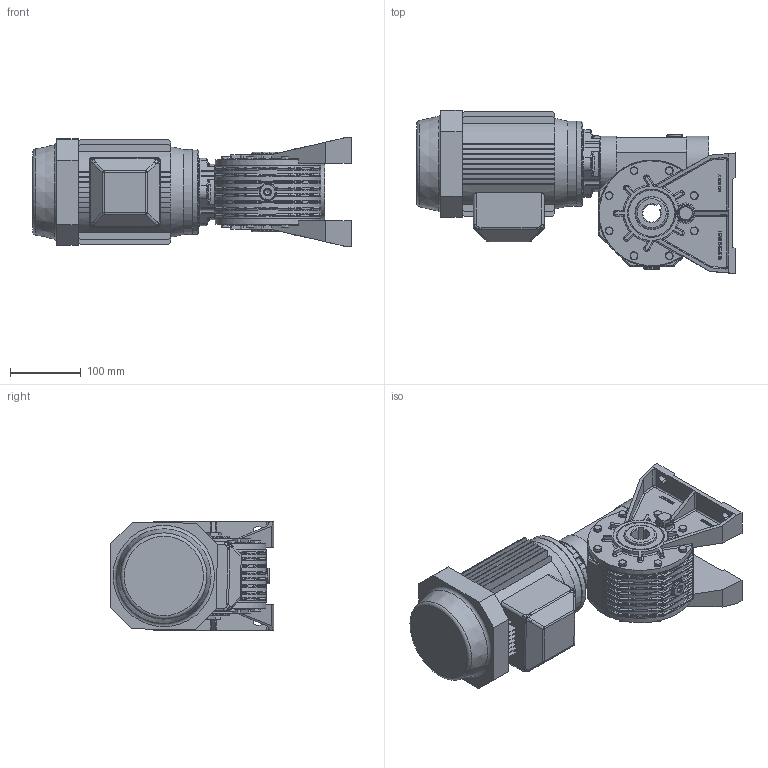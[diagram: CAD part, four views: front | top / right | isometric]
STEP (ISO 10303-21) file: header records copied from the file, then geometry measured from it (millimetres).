
FILE_DESCRIPTION((''),'2;1');
FILE_NAME('Y:\Archivi Inventor\Prog_01\GRAND_30\Figurini\MRV30 sito\80\MRV30_P3_80_B14.stp','2013-02-06T10:09:37',('tech3'),(''),'Autodesk Inventor 2013','Autodesk Inventor 2013','');
FILE_SCHEMA(('AUTOMOTIVE_DESIGN { 1 0 10303 214 1 1 1 1 }'));
Length unit declared in the file: millimetre
Products named in the file (16): MRV30_80_B14; MRV30; 0103001-A2 fig; 0103008.A1 fig F=25; PARAOLIO 45x65x10; RCA_52x7; Guarnizione 3_8 GAS; Tappo 3_8 GAS_esagn_incsst; 0103010-A0 fig; 0103029; DIN EN 24017 M6 x 20; Tappo3_8 GAS; 0103028; UNI 5931 M 8 x  25; 0103006; motori B14 80
Assembly tree (41 placements, depth 3):
  MRV30_80_B14
    MRV30
      0103001-A2 fig
      0103008.A1 fig F=25
      PARAOLIO 45x65x10  x2
      RCA_52x7
      Guarnizione 3_8 GAS  x4
      Tappo 3_8 GAS_esagn_incsst  x2
      0103010-A0 fig  x2
      0103029  x2
      DIN EN 24017 M6 x 20  x16
      Tappo3_8 GAS  x2
      0103028
      UNI 5931 M 8 x  25  x4
    0103006
    motori B14 80
Bounding box: 449.5 x 230.37 x 152.7 mm (x, y, z)
Volume: 5646439.9 mm3; surface area: 719798.8 mm2
Topology: 40 solids, 43 shells, 2559 faces, 6313 edges, 3906 vertices
Faces by surface type: plane 1286, cylinder 626, bspline 300, cone 174, torus 141, sphere 32
Full cylindrical faces by diameter (mm): 2 x2, 4.917 x20, 6 x16, 6.5 x32, 6.647 x4, 7 x4, 8 x6, 8.5 x8, 8.88 x16, 11 x16, 13 x8, 13.046 x2, 14.95 x4, 16.3 x4, 16.5 x2, 19 x1, 22 x8, 25 x3, 43 x1, 45 x4, 45.76 x1, 50.881 x2, 52 x6, 55 x1, 60.5 x2, 65 x4, 75 x2, 77 x1, 78 x1, 80 x1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
Entity records: 58229 total; most frequent: CARTESIAN_POINT 18489, ORIENTED_EDGE 7964, DIRECTION 7766, EDGE_CURVE 3982, AXIS2_PLACEMENT_3D 2802, VERTEX_POINT 2569, VECTOR 2162, LINE 2162
